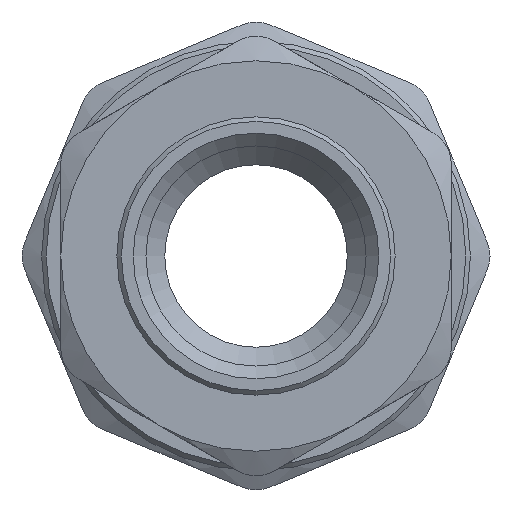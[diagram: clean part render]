
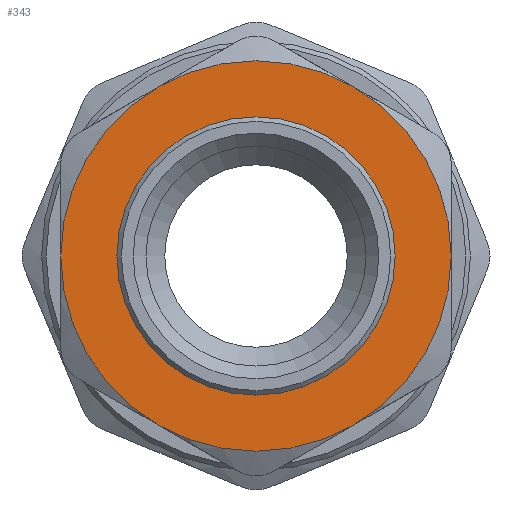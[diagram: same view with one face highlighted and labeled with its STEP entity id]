
A CAD part, front view. The second image highlights one B-rep face of the part: STEP entity #343.
In plain terms, the highlighted planar face has unit normal (0, -1, 0).
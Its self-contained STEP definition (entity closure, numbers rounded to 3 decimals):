
#343=ADVANCED_FACE('',(#2372,#2374),#2376,.F.);
#2372=FACE_BOUND('',#2373,.T.);
#2373=EDGE_LOOP('',(#4642,#4643,#4644,#4645));
#2374=FACE_BOUND('',#2375,.T.);
#2375=EDGE_LOOP('',(#4646));
#2376=PLANE('',#2377);
#2377=AXIS2_PLACEMENT_3D('',#2378,#2379,#2380);
#2378=CARTESIAN_POINT('',(0.,11.,0.));
#2379=DIRECTION('',(0.,1.,0.));
#2380=DIRECTION('',(-1.,0.,0.));
#4642=ORIENTED_EDGE('',*,*,#5543,.T.);
#4643=ORIENTED_EDGE('',*,*,#5541,.T.);
#4644=ORIENTED_EDGE('',*,*,#5540,.T.);
#4645=ORIENTED_EDGE('',*,*,#5542,.T.);
#4646=ORIENTED_EDGE('',*,*,#5554,.T.);
#5540=EDGE_CURVE('',#6272,#6277,#6902,.F.);
#5541=EDGE_CURVE('',#6297,#6272,#6903,.F.);
#5542=EDGE_CURVE('',#6277,#6305,#6904,.F.);
#5543=EDGE_CURVE('',#6305,#6297,#6905,.F.);
#5554=EDGE_CURVE('',#6926,#6926,#6927,.F.);
#6272=VERTEX_POINT('',#10085);
#6277=VERTEX_POINT('',#10164);
#6297=VERTEX_POINT('',#10498);
#6305=VERTEX_POINT('',#10620);
#6902=CIRCLE('',#12736,21.4);
#6903=CIRCLE('',#12740,21.4);
#6904=CIRCLE('',#12744,21.4);
#6905=CIRCLE('',#12748,21.4);
#6926=VERTEX_POINT('',#12794);
#6927=CIRCLE('',#12795,15.25);
#10085=CARTESIAN_POINT('',(-21.4,11.,0.));
#10164=CARTESIAN_POINT('',(-10.7,11.,-18.533));
#10498=CARTESIAN_POINT('',(21.4,11.,0.));
#10620=CARTESIAN_POINT('',(10.7,11.,-18.533));
#12736=AXIS2_PLACEMENT_3D('',#12737,#12738,#12739);
#12737=CARTESIAN_POINT('',(0.,11.,0.));
#12738=DIRECTION('',(0.,1.,0.));
#12739=DIRECTION('',(-0.5,0.,-0.866));
#12740=AXIS2_PLACEMENT_3D('',#12741,#12742,#12743);
#12741=CARTESIAN_POINT('',(0.,11.,0.));
#12742=DIRECTION('',(0.,1.,0.));
#12743=DIRECTION('',(-1.,0.,0.));
#12744=AXIS2_PLACEMENT_3D('',#12745,#12746,#12747);
#12745=CARTESIAN_POINT('',(0.,11.,0.));
#12746=DIRECTION('',(0.,1.,0.));
#12747=DIRECTION('',(0.5,0.,-0.866));
#12748=AXIS2_PLACEMENT_3D('',#12749,#12750,#12751);
#12749=CARTESIAN_POINT('',(0.,11.,0.));
#12750=DIRECTION('',(0.,1.,0.));
#12751=DIRECTION('',(1.,0.,0.));
#12794=CARTESIAN_POINT('',(15.25,11.,0.));
#12795=AXIS2_PLACEMENT_3D('',#12796,#12797,#12798);
#12796=CARTESIAN_POINT('',(0.,11.,0.));
#12797=DIRECTION('',(0.,-1.,0.));
#12798=DIRECTION('',(1.,0.,0.));
